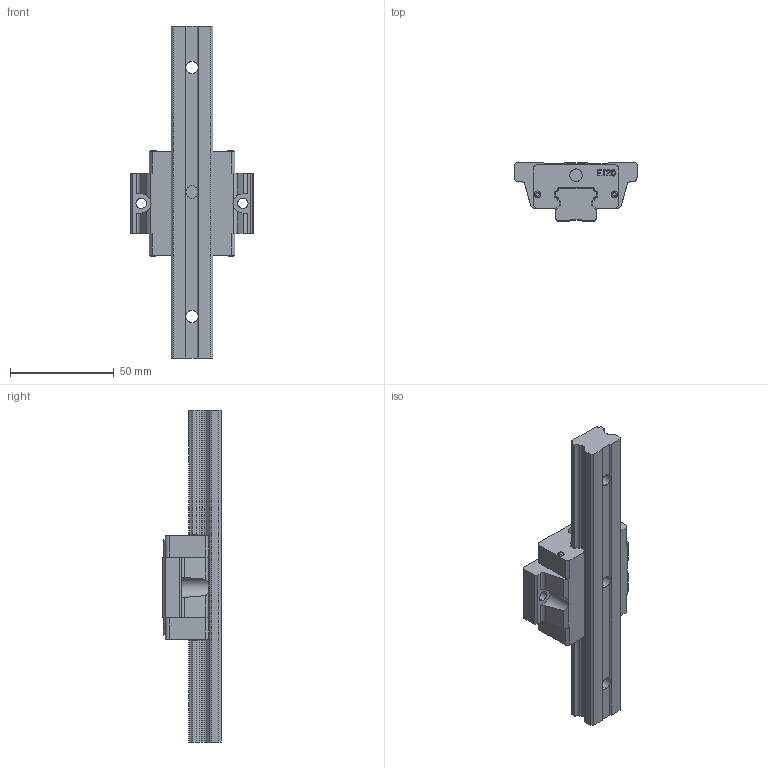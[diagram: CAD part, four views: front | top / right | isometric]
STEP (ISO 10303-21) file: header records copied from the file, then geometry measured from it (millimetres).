
FILE_DESCRIPTION (( 'STEP AP214' ), '1' );
FILE_NAME ('7.1032 Lineaarikelkka ETW20SA.STEP', '2026-03-12T11:10:41', ( '' ), ( '' ), 'SwSTEP 2.0', 'SolidWorks 2025', '' );
FILE_SCHEMA (( 'AUTOMOTIVE_DESIGN' ));
Length unit declared in the file: millimetre
Products named in the file (3): ET20_RAIL; ETW20SA_BLOCK; 7.1032 Lineaarikelkka ETW20SA
Assembly tree (2 placements, depth 2):
  7.1032 Lineaarikelkka ETW20SA
    ETW20SA_BLOCK
    ET20_RAIL
Bounding box: 59 x 28 x 160 mm (x, y, z)
Volume: 83440.6 mm3; surface area: 24017.3 mm2
Topology: 2 solids, 2 shells, 332 faces, 956 edges, 647 vertices
Faces by surface type: plane 190, cylinder 95, bspline 35, torus 8, cone 4
Entity records: 17697 total; most frequent: CARTESIAN_POINT 5478, ORIENTED_EDGE 1912, DIRECTION 1564, EDGE_CURVE 956, VERTEX_POINT 647, VECTOR 592, LINE 592, AXIS2_PLACEMENT_3D 486
